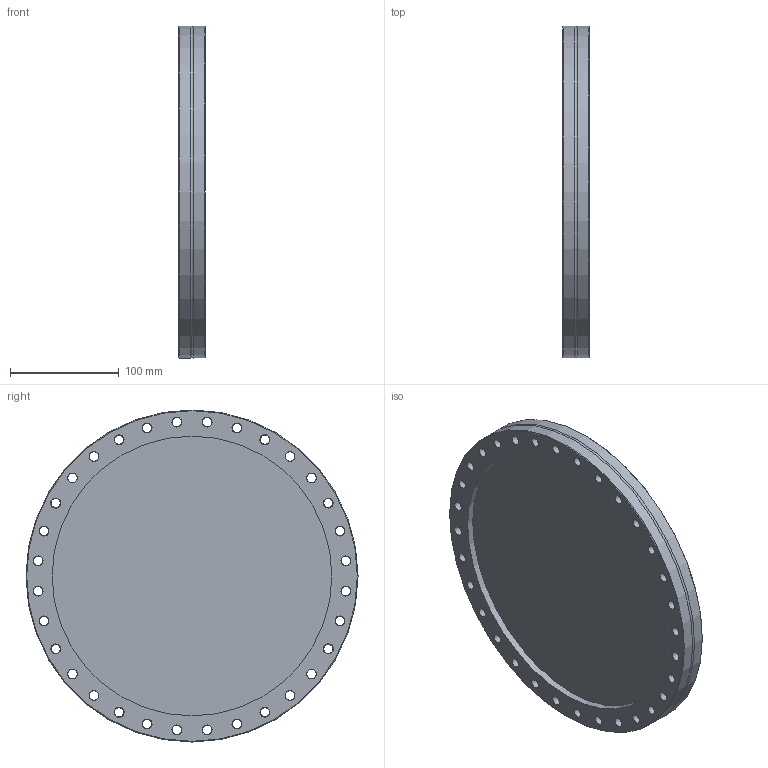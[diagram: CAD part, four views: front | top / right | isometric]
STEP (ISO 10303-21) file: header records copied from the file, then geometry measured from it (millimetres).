
FILE_DESCRIPTION((''),'2;1');
FILE_NAME('W:\13785_CF_Global_Fit_Umsetzung\023_Blank_Flange_Rotable\M213-117.stp','2010-09-01T10:09:41',('KAA'),(''),'Autodesk Inventor 2011','Autodesk Inventor 2011','');
FILE_SCHEMA(('AUTOMOTIVE_DESIGN { 1 0 10303 214 1 1 1 1 }'));
Length unit declared in the file: millimetre
Products named in the file (1): 213-117
Bounding box: 24.5 x 305 x 305 mm (x, y, z)
Volume: 1325076.1 mm3; surface area: 221771.4 mm2
Topology: 1 solids, 1 shells, 208 faces, 542 edges, 348 vertices
Faces by surface type: cone 71, plane 52, cylinder 47, bspline 35, torus 3
Full cylindrical faces by diameter (mm): 8.4 x32, 257 x1, 272.7 x1, 273.1 x1, 305 x2
Entity records: 14970 total; most frequent: CARTESIAN_POINT 10451, DIRECTION 802, ORIENTED_EDGE 800, EDGE_CURVE 400, EDGE_LOOP 393, AXIS2_PLACEMENT_3D 347, VERTEX_POINT 315, FACE_OUTER_BOUND 208
